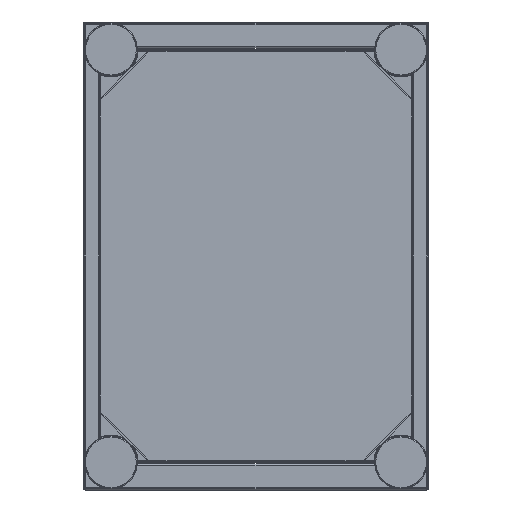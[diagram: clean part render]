
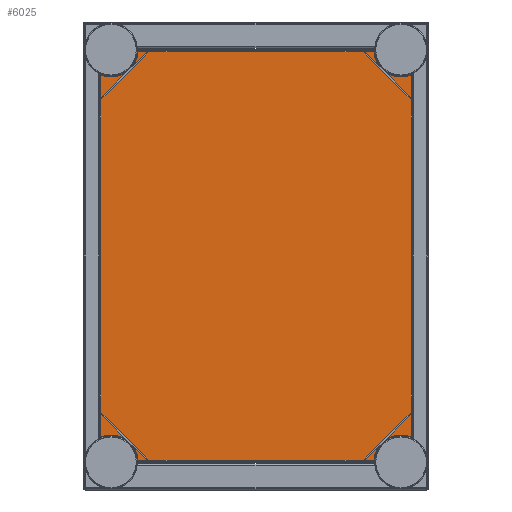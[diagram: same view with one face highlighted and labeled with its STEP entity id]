
A CAD part, front view. The second image highlights one B-rep face of the part: STEP entity #6025.
In plain terms, the highlighted planar face has unit normal (0, -1, 0).
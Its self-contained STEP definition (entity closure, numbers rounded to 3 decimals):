
#5466=CARTESIAN_POINT('',(165.85,-375.,-235.85));
#5467=DIRECTION('',(0.,1.,0.));
#5468=DIRECTION('',(-1.,0.,0.027));
#5469=AXIS2_PLACEMENT_3D('',#5466,#5467,#5468);
#5543=CARTESIAN_POINT('',(165.85,-375.,235.85));
#5544=DIRECTION('',(0.,1.,0.));
#5545=DIRECTION('',(0.422,0.,-0.907));
#5546=AXIS2_PLACEMENT_3D('',#5543,#5544,#5545);
#5624=DIRECTION('',(-1.,0.,0.));
#5625=VECTOR('',#5624,269.423);
#5626=CARTESIAN_POINT('',(134.712,-375.,235.));
#5627=LINE('',#5626,#5625);
#5628=DIRECTION('',(0.,0.,1.));
#5629=VECTOR('',#5628,415.223);
#5630=CARTESIAN_POINT('',(179.,-375.,-207.612));
#5631=LINE('',#5630,#5629);
#5632=DIRECTION('',(1.,0.,0.));
#5633=VECTOR('',#5632,269.423);
#5634=CARTESIAN_POINT('',(-134.712,-375.,-235.));
#5635=LINE('',#5634,#5633);
#5636=DIRECTION('',(0.,0.,-1.));
#5637=VECTOR('',#5636,415.223);
#5638=CARTESIAN_POINT('',(-179.,-375.,207.612));
#5639=LINE('',#5638,#5637);
#5664=CARTESIAN_POINT('',(-165.85,-375.,235.85));
#5665=DIRECTION('',(0.,1.,0.));
#5666=DIRECTION('',(1.,0.,-0.027));
#5667=AXIS2_PLACEMENT_3D('',#5664,#5665,#5666);
#5685=CARTESIAN_POINT('',(-165.85,-375.,-235.85));
#5686=DIRECTION('',(0.,1.,0.));
#5687=DIRECTION('',(-0.422,0.,0.907));
#5688=AXIS2_PLACEMENT_3D('',#5685,#5686,#5687);
#5786=CARTESIAN_POINT('',(-134.712,-375.,235.));
#5787=CARTESIAN_POINT('',(-179.,-375.,207.612));
#5788=VERTEX_POINT('',#5786);
#5789=VERTEX_POINT('',#5787);
#5790=CARTESIAN_POINT('',(179.,-375.,207.612));
#5791=CARTESIAN_POINT('',(134.712,-375.,235.));
#5792=VERTEX_POINT('',#5790);
#5793=VERTEX_POINT('',#5791);
#5794=CARTESIAN_POINT('',(134.712,-375.,-235.));
#5795=CARTESIAN_POINT('',(179.,-375.,-207.612));
#5796=VERTEX_POINT('',#5794);
#5797=VERTEX_POINT('',#5795);
#5798=CARTESIAN_POINT('',(-179.,-375.,-207.612));
#5799=CARTESIAN_POINT('',(-134.712,-375.,-235.));
#5800=VERTEX_POINT('',#5798);
#5801=VERTEX_POINT('',#5799);
#6005=CARTESIAN_POINT('',(0.,-375.,0.));
#6006=DIRECTION('',(0.,-1.,0.));
#6007=DIRECTION('',(-1.,0.,0.));
#6008=AXIS2_PLACEMENT_3D('',#6005,#6006,#6007);
#6009=PLANE('',#6008);
#6011=ORIENTED_EDGE('',*,*,#6010,.F.);
#6013=ORIENTED_EDGE('',*,*,#6012,.F.);
#6014=ORIENTED_EDGE('',*,*,#5925,.F.);
#6015=ORIENTED_EDGE('',*,*,#5999,.F.);
#6016=ORIENTED_EDGE('',*,*,#5850,.F.);
#6018=ORIENTED_EDGE('',*,*,#6017,.F.);
#6020=ORIENTED_EDGE('',*,*,#6019,.F.);
#6022=ORIENTED_EDGE('',*,*,#6021,.F.);
#6023=EDGE_LOOP('',(#6011,#6013,#6014,#6015,#6016,#6018,#6020,#6022));
#6024=FACE_OUTER_BOUND('',#6023,.F.);
#5470=CIRCLE('',#5469,31.15);
#5547=CIRCLE('',#5546,31.15);
#5668=CIRCLE('',#5667,31.15);
#5689=CIRCLE('',#5688,31.15);
#5850=EDGE_CURVE('',#5796,#5797,#5470,.T.);
#5925=EDGE_CURVE('',#5792,#5793,#5547,.T.);
#5999=EDGE_CURVE('',#5797,#5792,#5631,.T.);
#6010=EDGE_CURVE('',#5788,#5789,#5668,.T.);
#6012=EDGE_CURVE('',#5793,#5788,#5627,.T.);
#6017=EDGE_CURVE('',#5801,#5796,#5635,.T.);
#6019=EDGE_CURVE('',#5800,#5801,#5689,.T.);
#6021=EDGE_CURVE('',#5789,#5800,#5639,.T.);
#6025=ADVANCED_FACE('',(#6024),#6009,.T.);
